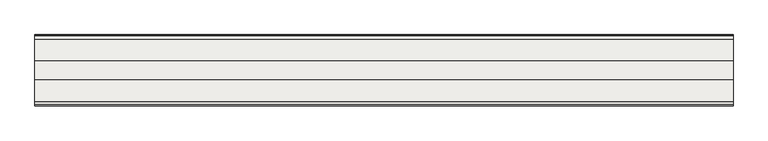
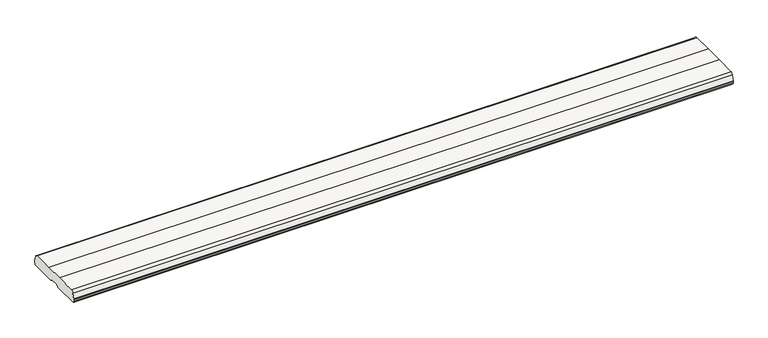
"""IFC4 building model written with IfcOpenShell, lengths in millimetres: slab geometry, ROSA GRES_121 CM : Pieza 121 CM_Tresor_Java_Anti-Slip."""

import ifcopenshell
import ifcopenshell.guid

model = None  # the IFC model being written
_history = None  # IfcOwnerHistory: only IFC2X3 demands one
_inside = {}  # id of a spatial element -> (the spatial element, [elements in it])
_under = {}  # id of a project, library or spatial element -> (it, [spatial elements below it])
_declared = {}  # id of a project -> (the project, [libraries it declares])
_typed = {}  # id of a type object -> (the type object, [elements of that type])
_made_of = {}  # id of a material, layer set ... -> (it, [elements and type objects made of it])


def new_model(schema):
    """Start an empty IFC model of exactly this schema.

    Asked for "IFC4X3", IfcOpenShell would pick the latest addendum, in which some entities
    have other attributes; the version numbers below select the first issue.
    IFC2X3 requires an IfcOwnerHistory on every rooted entity: one is made here for all.
    """
    global model, _history
    if schema == "IFC4X3":
        model = ifcopenshell.file(schema_version=(4, 3, 0, 0))
    else:
        model = ifcopenshell.file(schema=schema)
    _inside.clear()
    _under.clear()
    _declared.clear()
    _typed.clear()
    _made_of.clear()
    _history = None
    if model.schema == "IFC2X3":
        org = make("IfcOrganization", Name="unknown")
        user = make(
            "IfcPersonAndOrganization",
            ThePerson=make("IfcPerson", FamilyName="unknown"),
            TheOrganization=org,
        )
        app = make(
            "IfcApplication",
            ApplicationDeveloper=org,
            Version="unknown",
            ApplicationFullName="unknown",
            ApplicationIdentifier="unknown",
        )
        _history = make(
            "IfcOwnerHistory",
            OwningUser=user,
            OwningApplication=app,
            ChangeAction="ADDED",
            CreationDate=0,
        )
    return model


def make(cls, **values):
    """One entity of the class cls with the attributes given. An attribute that is None is left unset."""
    return model.create_entity(
        cls, **{name: value for name, value in values.items() if value is not None}
    )


def rooted(cls, **values):
    """An entity with a GlobalId (a new one), such as an element, a storey or a relation."""
    return make(cls, GlobalId=ifcopenshell.guid.new(), OwnerHistory=_history, **values)


def si_unit(unit_type, name, prefix=None):
    """IfcSIUnit, for example si_unit("LENGTHUNIT", "METRE", prefix="MILLI")."""
    return make("IfcSIUnit", UnitType=unit_type, Prefix=prefix, Name=name)


def assignment(units):
    """IfcUnitAssignment: the units of a project."""
    return None if units is None else make("IfcUnitAssignment", Units=units)


def point(xyz):
    """IfcCartesianPoint."""
    return None if xyz is None else make("IfcCartesianPoint", Coordinates=xyz)


def direction(xyz):
    """IfcDirection."""
    return None if xyz is None else make("IfcDirection", DirectionRatios=xyz)


def frame(location, z_axis=None, x_axis=None):
    """IfcAxis2Placement3D, a coordinate frame: its origin and axes. An axis left out is left unset."""
    return make(
        "IfcAxis2Placement3D",
        Location=point(location),
        Axis=direction(z_axis),
        RefDirection=direction(x_axis),
    )


def frame_2d(location, x_axis=None):
    """IfcAxis2Placement2D, a coordinate frame in the plane: its origin and x axis."""
    return make(
        "IfcAxis2Placement2D", Location=point(location), RefDirection=direction(x_axis)
    )


def origin():
    """The frame at (0, 0, 0) with its axes left unset."""
    return frame((0.0, 0.0, 0.0))


def place(relative_to, where):
    """IfcLocalPlacement: puts the frame where relative to a parent placement (None: the world)."""
    return make(
        "IfcLocalPlacement", PlacementRelTo=relative_to, RelativePlacement=where
    )


def context(
    kind, dimensions, precision=None, world=None, true_north=None, identifier=None
):
    """IfcGeometricRepresentationContext, for example the 3D "Model" context."""
    return make(
        "IfcGeometricRepresentationContext",
        ContextIdentifier=identifier,
        ContextType=kind,
        CoordinateSpaceDimension=dimensions,
        Precision=precision,
        WorldCoordinateSystem=world,
        TrueNorth=true_north,
    )


def project(units=None, contexts=None):
    """IfcProject with its units and contexts."""
    return rooted(
        "IfcProject",
        Name="project",
        RepresentationContexts=contexts,
        UnitsInContext=assignment(units),
    )


def spatial(cls, under=None, at=None, **own):
    """A site, building, storey or space (cls), placed at a placement, below another one or the project."""
    s = rooted(cls, ObjectPlacement=at, **own)
    if under is not None:
        _under.setdefault(under.id(), (under, []))[1].append(s)
    return s


def polyline(points):
    """IfcPolyline through the points."""
    return make("IfcPolyline", Points=[point(p) for p in points])


def circle_curve(where, radius):
    """IfcCircle in the frame where."""
    return make("IfcCircle", Position=where, Radius=radius)


def trimmed(basis, trim1, trim2, sense, master):
    """IfcTrimmedCurve: the piece of a basis curve between two trims."""
    return make(
        "IfcTrimmedCurve",
        BasisCurve=basis,
        Trim1=trim1,
        Trim2=trim2,
        SenseAgreement=sense,
        MasterRepresentation=master,
    )


def segment(curve, same_sense, transition):
    """IfcCompositeCurveSegment."""
    return make(
        "IfcCompositeCurveSegment",
        Transition=transition,
        SameSense=same_sense,
        ParentCurve=curve,
    )


def composite_curve(segments, self_intersect=None):
    """IfcCompositeCurve: segments joined end to end."""
    return make("IfcCompositeCurve", Segments=segments, SelfIntersect=self_intersect)


def outline(outer, holes=None, kind="AREA"):
    """IfcArbitraryClosedProfileDef: a profile drawn as a closed curve; with holes, ...WithVoids."""
    if holes is None:
        return make("IfcArbitraryClosedProfileDef", ProfileType=kind, OuterCurve=outer)
    return make(
        "IfcArbitraryProfileDefWithVoids",
        ProfileType=kind,
        OuterCurve=outer,
        InnerCurves=holes,
    )


def extrude(swept, where, along, depth):
    """IfcExtrudedAreaSolid: the profile swept, set in the frame where, extruded along a direction by depth."""
    return make(
        "IfcExtrudedAreaSolid",
        SweptArea=swept,
        Position=where,
        ExtrudedDirection=direction(along),
        Depth=depth,
    )


def shape(context_of_items, identifier, shape_type, items):
    """IfcShapeRepresentation: the items that make up one representation, for example the "Body"."""
    return make(
        "IfcShapeRepresentation",
        ContextOfItems=context_of_items,
        RepresentationIdentifier=identifier,
        RepresentationType=shape_type,
        Items=items,
    )


def source(mapping_origin, context_of_items, identifier, shape_type, items):
    """IfcRepresentationMap: a shape defined once, which mapped items show again and again."""
    return make(
        "IfcRepresentationMap",
        MappingOrigin=mapping_origin,
        MappedRepresentation=shape(context_of_items, identifier, shape_type, items),
    )


def transform(
    local_origin,
    x_axis=None,
    y_axis=None,
    z_axis=None,
    scale=None,
    scale2=None,
    scale3=None,
    uniform=True,
):
    """IfcCartesianTransformationOperator3D, or its non-uniform kind. x_axis, y_axis, z_axis: its Axis1, 2, 3."""
    if uniform:
        return make(
            "IfcCartesianTransformationOperator3D",
            Axis1=direction(x_axis),
            Axis2=direction(y_axis),
            LocalOrigin=point(local_origin),
            Scale=scale,
            Axis3=direction(z_axis),
        )
    return make(
        "IfcCartesianTransformationOperator3DnonUniform",
        Axis1=direction(x_axis),
        Axis2=direction(y_axis),
        LocalOrigin=point(local_origin),
        Scale=scale,
        Axis3=direction(z_axis),
        Scale2=scale2,
        Scale3=scale3,
    )


def mapped(mapping_source, mapping_target):
    """IfcMappedItem: shows the shape of a source again, moved by a transform."""
    return make(
        "IfcMappedItem", MappingSource=mapping_source, MappingTarget=mapping_target
    )


def made_of(thing, what):
    """Note that an element or type object is made of a material, layer set ...; save() writes the relation."""
    if what is not None:
        _made_of.setdefault(what.id(), (what, []))[1].append(thing)
    return thing


def element(
    cls,
    number,
    at=None,
    inside=None,
    cuts=None,
    type_object=None,
    material=None,
    context=None,
    identifier="Body",
    shape_type=None,
    held_by="IfcProductDefinitionShape",
    body=None,
    shapes=None,
    **own,
):
    """One element of the class cls, such as IfcWall. Its Tag is "e" and its number.

    at: its placement. inside: the storey or other place that contains it. cuts: it is an
    opening in that element (IfcRelVoidsElement). A single representation is given by context,
    identifier, shape_type and body (its items); several are given by shapes. held_by: the class
    of the entity that holds the representations. save() writes the other relations.
    """
    e = rooted(cls, Tag="e%d" % number, ObjectPlacement=at, **own)
    if body is not None:
        shapes = [shape(context, identifier, shape_type, body)]
    if shapes is not None:
        e.Representation = make(held_by, Representations=shapes)
    if inside is not None:
        _inside.setdefault(inside.id(), (inside, []))[1].append(e)
    if cuts is not None:
        rooted(
            "IfcRelVoidsElement", RelatingBuildingElement=cuts, RelatedOpeningElement=e
        )
    if type_object is not None:
        _typed.setdefault(type_object.id(), (type_object, []))[1].append(e)
    return made_of(e, material)


def aggregate(whole, parts):
    """IfcRelAggregates: a whole, such as a stair, and the parts it consists of."""
    return rooted("IfcRelAggregates", RelatingObject=whole, RelatedObjects=parts)


def save(model, path):
    """Write the relations noted so far, then the file.

    IfcRelAggregates (storeys below a building ...), IfcRelContainedInSpatialStructure (elements
    in a storey), IfcRelDefinesByType, IfcRelAssociatesMaterial and IfcRelDeclares: one each for
    every whole, place, type object, material and project.
    """
    for whole, parts in _under.values():
        aggregate(whole, parts)
    for where, things in _inside.values():
        rooted(
            "IfcRelContainedInSpatialStructure",
            RelatedElements=things,
            RelatingStructure=where,
        )
    for kind, things in _typed.values():
        rooted("IfcRelDefinesByType", RelatedObjects=things, RelatingType=kind)
    for what, things in _made_of.values():
        rooted("IfcRelAssociatesMaterial", RelatedObjects=things, RelatingMaterial=what)
    for by, libraries in _declared.values():
        rooted("IfcRelDeclares", RelatingContext=by, RelatedDefinitions=libraries)
    model.write(path)


def slab_83b65e3d(model_context):
    return source(origin(), model_context, "Body", "SweptSolid", [
        extrude(outline(composite_curve([segment(polyline([(122.780004, -4.4288005), (125.2726851, -14.1746663)]), True, "CONTINUOUS"), segment(trimmed(circle_curve(frame_2d((120.5, -15.6651284)), 5.0), [point((125.2726851, -14.1746663))], [point((125.5, -15.6651284))], False, "CARTESIAN"), True, "CONTINUOUS"), segment(polyline([(125.5, -15.6651284), (125.5, -17.9933959)]), True, "CONTINUOUS"), segment(trimmed(circle_curve(frame_2d((120.4972512, -17.9933959)), 5.0027488), [point((125.5, -17.9933959))], [point((123.5971345, -21.92))], False, "CARTESIAN"), True, "CONTINUOUS"), segment(polyline([(123.5971345, -21.92), (76.1600446, -21.92)]), True, "CONTINUOUS"), segment(trimmed(circle_curve(frame_2d((76.1600446, -19.92)), 2.0), [point((76.1600446, -21.92))], [point((74.4339023, -20.9301647))], False, "CARTESIAN"), True, "CONTINUOUS"), segment(trimmed(circle_curve(frame_2d((70.1185466, -23.4555766)), 5.0), [point((74.4339023, -20.9301647))], [point((70.1185466, -18.4555766))], True, "CARTESIAN"), True, "CONTINUOUS"), segment(polyline([(70.1185466, -18.4555766), (57.8814534, -18.4555766)]), True, "CONTINUOUS"), segment(trimmed(circle_curve(frame_2d((57.8814534, -23.4555766)), 5.0), [point((57.8814534, -18.4555766))], [point((53.5660977, -20.9301647))], True, "CARTESIAN"), True, "CONTINUOUS"), segment(trimmed(circle_curve(frame_2d((51.8399554, -19.92)), 2.0), [point((53.5660977, -20.9301647))], [point((51.8399554, -21.92))], False, "CARTESIAN"), True, "CONTINUOUS"), segment(polyline([(51.8399554, -21.92), (4.4028655, -21.92)]), True, "CONTINUOUS"), segment(trimmed(circle_curve(frame_2d((7.5027488, -17.9933959)), 5.0027488), [point((4.4028655, -21.92))], [point((2.5, -17.9933959))], False, "CARTESIAN"), True, "CONTINUOUS"), segment(polyline([(2.5, -17.9933959), (2.5, -15.6651284)]), True, "CONTINUOUS"), segment(trimmed(circle_curve(frame_2d((7.5, -15.6651284)), 5.0), [point((2.5, -15.6651284))], [point((2.7273149, -14.1746663))], False, "CARTESIAN"), True, "CONTINUOUS"), segment(polyline([(2.7273149, -14.1746663), (5.219996, -4.4288005)]), True, "CONTINUOUS"), segment(trimmed(circle_curve(frame_2d((9.9926811, -5.9192626)), 5.0), [point((5.219996, -4.4288005))], [point((9.9075888, -0.9199867))], False, "CARTESIAN"), True, "CONTINUOUS"), segment(polyline([(9.9075888, -0.9199867), (46.9815344, -0.2889537)]), True, "CONTINUOUS"), segment(trimmed(circle_curve(frame_2d((64.0, -1000.1441291)), 1000.0), [point((46.9815344, -0.2889537))], [point((81.0184656, -0.2889537))], False, "CARTESIAN"), True, "CONTINUOUS"), segment(polyline([(81.0184656, -0.2889537), (118.0924112, -0.9199867)]), True, "CONTINUOUS"), segment(trimmed(circle_curve(frame_2d((118.0073189, -5.9192626)), 5.0), [point((118.0924112, -0.9199867))], [point((122.780004, -4.4288005))], False, "CARTESIAN"), True, "CONTINUOUS")], self_intersect=False)), frame((0.0, 0.0, 0.0), z_axis=(1.0, 0.0, 0.0), x_axis=(0.0, 1.0, 0.0)), (0.0, 0.0, 1.0), 1205.0),
    ])


if __name__ == "__main__":
    model = new_model("IFC4")
    model_context = context("Model", 3, world=origin())
    ifc_project = project(units=[si_unit("LENGTHUNIT", "METRE", prefix="MILLI")], contexts=[model_context])
    site = spatial("IfcSite", under=ifc_project)
    building = spatial("IfcBuilding", under=site)
    placement = place(None, origin())
    slab_shape = slab_83b65e3d(model_context)
    element("IfcSlab", 1, ObjectType="ROSA GRES_121 CM : Pieza 121 CM_Tresor_Java_Anti-Slip", at=placement, inside=building, context=model_context, shape_type="MappedRepresentation", body=[
        mapped(slab_shape, transform((0.0, 0.0, 0.0), x_axis=(1.0, 0.0, 0.0), y_axis=(0.0, 1.0, 0.0), z_axis=(0.0, 0.0, 1.0))),
    ])
    save(model, "model.ifc")
